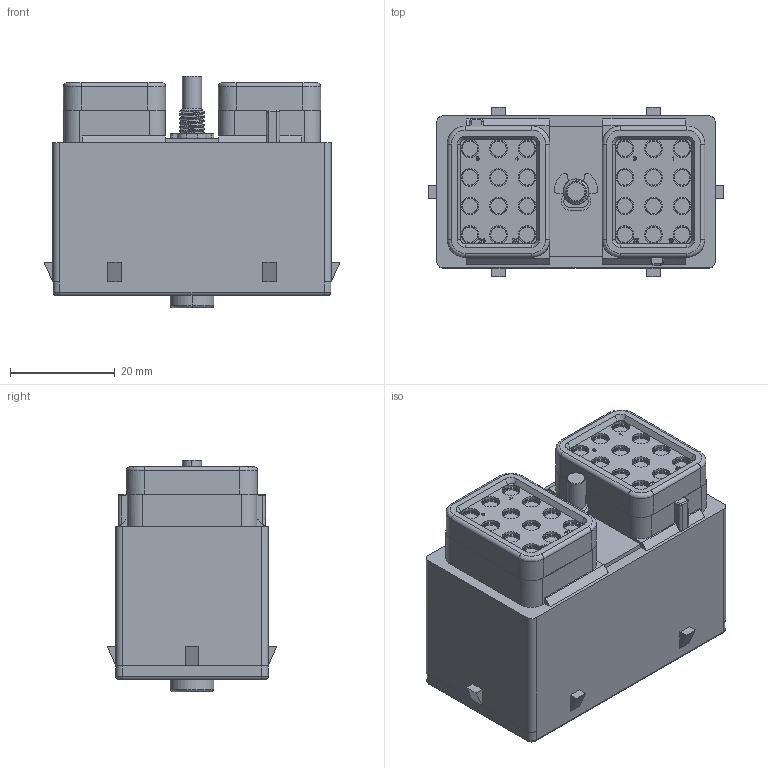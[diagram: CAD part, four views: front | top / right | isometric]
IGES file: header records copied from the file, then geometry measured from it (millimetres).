
Start section:  PTC IGES file: c-drc16-24sb-p013-99-3d.igs
Global section: file name: c-drc16-24sb-p013-99-3d.igs; native system: Pro/ENGINEER by Parametric Technology Corporation; preprocessor: 2011490; author: workeradm; organization: Unknown; units: millimetre
Bounding box: 56.64 x 32.46 x 44.32 mm (x, y, z)
Surface area: 11236.4 mm2 (no closed solid volume)
Topology: 0 solids, 0 shells, 1046 faces, 5114 edges, 5114 vertices
Faces by surface type: bspline 574, revolution 472
